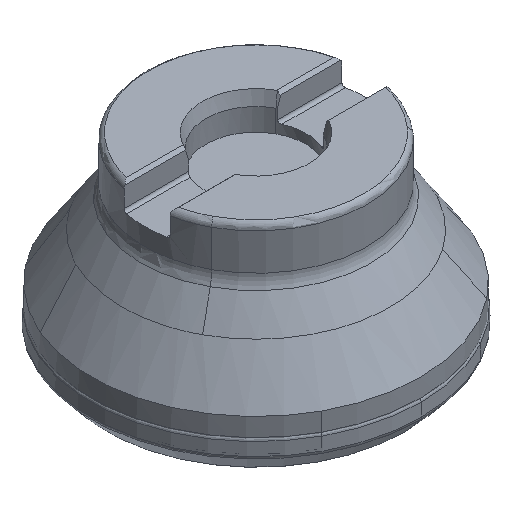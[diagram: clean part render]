
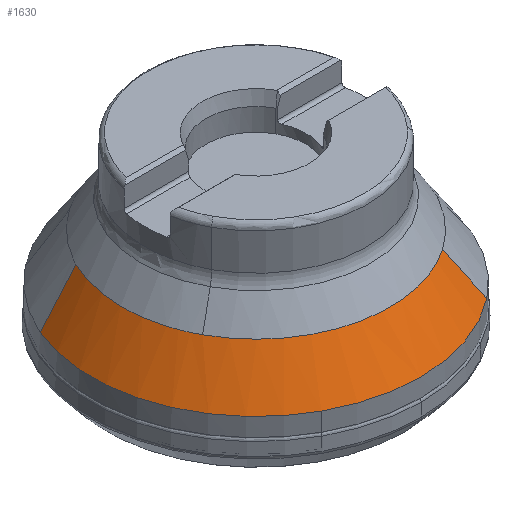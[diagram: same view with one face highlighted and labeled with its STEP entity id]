
A CAD part, isometric view. The second image highlights one B-rep face of the part: STEP entity #1630.
In plain terms, the highlighted face is a revolution surface.
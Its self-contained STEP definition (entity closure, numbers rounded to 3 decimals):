
#1301=AXIS2_PLACEMENT_3D('Circle Axis2P3D',#1299,#1300,$) ;
#1308=AXIS2_PLACEMENT_3D('Circle Axis2P3D',#1306,#1307,$) ;
#1343=AXIS2_PLACEMENT_3D('Circle Axis2P3D',#1341,#1342,$) ;
#1350=AXIS2_PLACEMENT_3D('Circle Axis2P3D',#1348,#1349,$) ;
#1357=AXIS2_PLACEMENT_3D('Circle Axis2P3D',#1355,#1356,$) ;
#1609=AXIS2_PLACEMENT_3D('Circle Axis2P3D',#1607,#1608,$) ;
#1616=AXIS2_PLACEMENT_3D('Circle Axis2P3D',#1614,#1615,$) ;
#1296=CARTESIAN_POINT('Vertex',(-32.271,16.263,27.278)) ;
#1299=CARTESIAN_POINT('Axis2P3D Location',(0.,0.,27.278)) ;
#1303=CARTESIAN_POINT('Vertex',(-34.576,-10.507,27.278)) ;
#1306=CARTESIAN_POINT('Axis2P3D Location',(0.,0.,27.278)) ;
#1310=CARTESIAN_POINT('Vertex',(-31.713,-17.325,27.278)) ;
#1341=CARTESIAN_POINT('Axis2P3D Location',(0.,0.,27.278)) ;
#1345=CARTESIAN_POINT('Vertex',(-17.053,-31.861,27.278)) ;
#1348=CARTESIAN_POINT('Axis2P3D Location',(0.,0.,27.278)) ;
#1352=CARTESIAN_POINT('Vertex',(8.389,-35.15,27.278)) ;
#1355=CARTESIAN_POINT('Axis2P3D Location',(0.,0.,27.278)) ;
#1359=CARTESIAN_POINT('Vertex',(20.523,-29.744,27.278)) ;
#1422=CARTESIAN_POINT('Control Point',(20.523,-29.744,27.278)) ;
#1423=CARTESIAN_POINT('Control Point',(20.956,-30.065,26.512)) ;
#1424=CARTESIAN_POINT('Control Point',(21.389,-30.385,25.746)) ;
#1425=CARTESIAN_POINT('Control Point',(21.82,-30.705,24.978)) ;
#1426=CARTESIAN_POINT('Control Point',(22.391,-31.128,23.962)) ;
#1427=CARTESIAN_POINT('Control Point',(22.96,-31.551,22.946)) ;
#1428=CARTESIAN_POINT('Control Point',(23.099,-31.654,22.698)) ;
#1429=CARTESIAN_POINT('Control Point',(23.873,-32.229,21.314)) ;
#1430=CARTESIAN_POINT('Control Point',(24.646,-32.803,19.928)) ;
#1431=CARTESIAN_POINT('Control Point',(25.28,-33.274,18.789)) ;
#1432=CARTESIAN_POINT('Control Point',(26.08,-33.869,17.348)) ;
#1433=CARTESIAN_POINT('Control Point',(26.879,-34.464,15.905)) ;
#1434=CARTESIAN_POINT('Control Point',(27.046,-34.588,15.603)) ;
#1435=CARTESIAN_POINT('Control Point',(27.214,-34.713,15.301)) ;
#1436=CARTESIAN_POINT('Control Point',(27.381,-34.838,14.999)) ;
#1437=CARTESIAN_POINT('Vertex',(27.381,-34.838,14.999)) ;
#1559=CARTESIAN_POINT('Vertex',(-40.731,17.446,14.999)) ;
#1563=CARTESIAN_POINT('Control Point',(-32.271,16.263,27.278)) ;
#1564=CARTESIAN_POINT('Control Point',(-32.804,16.337,26.512)) ;
#1565=CARTESIAN_POINT('Control Point',(-33.337,16.411,25.746)) ;
#1566=CARTESIAN_POINT('Control Point',(-33.87,16.485,24.978)) ;
#1567=CARTESIAN_POINT('Control Point',(-34.573,16.583,23.962)) ;
#1568=CARTESIAN_POINT('Control Point',(-35.276,16.681,22.946)) ;
#1569=CARTESIAN_POINT('Control Point',(-35.447,16.704,22.698)) ;
#1570=CARTESIAN_POINT('Control Point',(-36.402,16.838,21.314)) ;
#1571=CARTESIAN_POINT('Control Point',(-37.355,16.971,19.928)) ;
#1572=CARTESIAN_POINT('Control Point',(-38.137,17.081,18.789)) ;
#1573=CARTESIAN_POINT('Control Point',(-39.125,17.22,17.348)) ;
#1574=CARTESIAN_POINT('Control Point',(-40.111,17.358,15.905)) ;
#1575=CARTESIAN_POINT('Control Point',(-40.318,17.388,15.603)) ;
#1576=CARTESIAN_POINT('Control Point',(-40.524,17.417,15.301)) ;
#1577=CARTESIAN_POINT('Control Point',(-40.731,17.446,14.999)) ;
#1588=CARTESIAN_POINT('Control Point',(-32.271,16.263,27.278)) ;
#1589=CARTESIAN_POINT('Control Point',(-32.804,16.337,26.512)) ;
#1590=CARTESIAN_POINT('Control Point',(-33.337,16.411,25.746)) ;
#1591=CARTESIAN_POINT('Control Point',(-33.87,16.485,24.978)) ;
#1592=CARTESIAN_POINT('Control Point',(-34.573,16.583,23.962)) ;
#1593=CARTESIAN_POINT('Control Point',(-35.276,16.681,22.946)) ;
#1594=CARTESIAN_POINT('Control Point',(-35.447,16.704,22.698)) ;
#1595=CARTESIAN_POINT('Control Point',(-36.402,16.838,21.314)) ;
#1596=CARTESIAN_POINT('Control Point',(-37.355,16.971,19.928)) ;
#1597=CARTESIAN_POINT('Control Point',(-38.137,17.081,18.789)) ;
#1598=CARTESIAN_POINT('Control Point',(-39.125,17.22,17.348)) ;
#1599=CARTESIAN_POINT('Control Point',(-40.111,17.358,15.905)) ;
#1600=CARTESIAN_POINT('Control Point',(-40.318,17.388,15.603)) ;
#1601=CARTESIAN_POINT('Control Point',(-40.524,17.417,15.301)) ;
#1602=CARTESIAN_POINT('Control Point',(-40.731,17.446,14.999)) ;
#1603=CARTESIAN_POINT('Axis1P Location',(0.,0.,14.139)) ;
#1607=CARTESIAN_POINT('Axis2P3D Location',(0.,0.,14.999)) ;
#1611=CARTESIAN_POINT('Vertex',(-21.243,-38.886,14.999)) ;
#1614=CARTESIAN_POINT('Axis2P3D Location',(0.,0.,14.999)) ;
#1300=DIRECTION('Axis2P3D Direction',(-0.,0.,-1.)) ;
#1307=DIRECTION('Axis2P3D Direction',(-0.,0.,-1.)) ;
#1342=DIRECTION('Axis2P3D Direction',(-0.,0.,-1.)) ;
#1349=DIRECTION('Axis2P3D Direction',(-0.,0.,-1.)) ;
#1356=DIRECTION('Axis2P3D Direction',(-0.,0.,-1.)) ;
#1604=DIRECTION('Axis1P Direction',(0.,0.,-1.)) ;
#1608=DIRECTION('Axis2P3D Direction',(0.,0.,-1.)) ;
#1615=DIRECTION('Axis2P3D Direction',(0.,0.,-1.)) ;
#1605=AXIS1_PLACEMENT('Revolution Surface Axis1P',#1603,#1604) ;
#1620=ORIENTED_EDGE('',*,*,#1305,.T.) ;
#1621=ORIENTED_EDGE('',*,*,#1578,.T.) ;
#1622=ORIENTED_EDGE('',*,*,#1613,.F.) ;
#1623=ORIENTED_EDGE('',*,*,#1618,.F.) ;
#1624=ORIENTED_EDGE('',*,*,#1439,.F.) ;
#1625=ORIENTED_EDGE('',*,*,#1361,.T.) ;
#1626=ORIENTED_EDGE('',*,*,#1354,.T.) ;
#1627=ORIENTED_EDGE('',*,*,#1347,.T.) ;
#1628=ORIENTED_EDGE('',*,*,#1312,.T.) ;
#1630=ADVANCED_FACE('NO_CUT',(#1629),#1606,.T.) ;
#1421=B_SPLINE_CURVE_WITH_KNOTS('',5,(#1422,#1423,#1424,#1425,#1426,#1427,#1428,#1429,#1430,#1431,#1432,#1433,#1434,#1435,#1436),.UNSPECIFIED.,.F.,.U.,(6,3,3,3,6),(0.,4.688,6.199,13.122,14.957),.UNSPECIFIED.) ;
#1562=B_SPLINE_CURVE_WITH_KNOTS('',5,(#1563,#1564,#1565,#1566,#1567,#1568,#1569,#1570,#1571,#1572,#1573,#1574,#1575,#1576,#1577),.UNSPECIFIED.,.F.,.U.,(6,3,3,3,6),(0.,4.688,6.199,13.122,14.957),.UNSPECIFIED.) ;
#1587=B_SPLINE_CURVE_WITH_KNOTS('',5,(#1588,#1589,#1590,#1591,#1592,#1593,#1594,#1595,#1596,#1597,#1598,#1599,#1600,#1601,#1602),.UNSPECIFIED.,.F.,.U.,(6,3,3,3,6),(0.,4.688,6.199,13.122,14.957),.UNSPECIFIED.) ;
#1302=CIRCLE('generated circle',#1301,36.137) ;
#1309=CIRCLE('generated circle',#1308,36.137) ;
#1344=CIRCLE('generated circle',#1343,36.137) ;
#1351=CIRCLE('generated circle',#1350,36.137) ;
#1358=CIRCLE('generated circle',#1357,36.137) ;
#1610=CIRCLE('generated circle',#1609,44.31) ;
#1617=CIRCLE('generated circle',#1616,44.31) ;
#1305=EDGE_CURVE('',#1304,#1297,#1302,.T.) ;
#1312=EDGE_CURVE('',#1311,#1304,#1309,.T.) ;
#1347=EDGE_CURVE('',#1346,#1311,#1344,.T.) ;
#1354=EDGE_CURVE('',#1353,#1346,#1351,.T.) ;
#1361=EDGE_CURVE('',#1360,#1353,#1358,.T.) ;
#1439=EDGE_CURVE('',#1360,#1438,#1421,.T.) ;
#1578=EDGE_CURVE('',#1297,#1560,#1562,.T.) ;
#1613=EDGE_CURVE('',#1612,#1560,#1610,.T.) ;
#1618=EDGE_CURVE('',#1438,#1612,#1617,.T.) ;
#1619=EDGE_LOOP('',(#1620,#1621,#1622,#1623,#1624,#1625,#1626,#1627,#1628)) ;
#1629=FACE_OUTER_BOUND('',#1619,.T.) ;
#1606=SURFACE_OF_REVOLUTION('Surface of Revolution',#1587,#1605) ;
#1297=VERTEX_POINT('',#1296) ;
#1304=VERTEX_POINT('',#1303) ;
#1311=VERTEX_POINT('',#1310) ;
#1346=VERTEX_POINT('',#1345) ;
#1353=VERTEX_POINT('',#1352) ;
#1360=VERTEX_POINT('',#1359) ;
#1438=VERTEX_POINT('',#1437) ;
#1560=VERTEX_POINT('',#1559) ;
#1612=VERTEX_POINT('',#1611) ;
